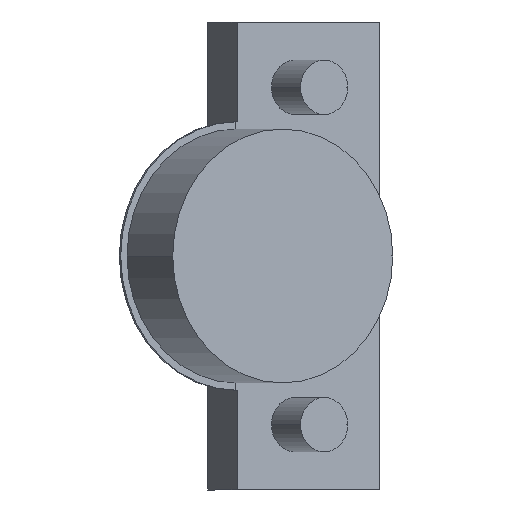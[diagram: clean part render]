
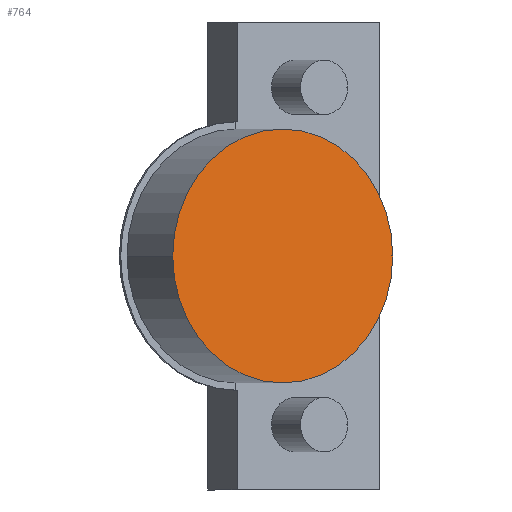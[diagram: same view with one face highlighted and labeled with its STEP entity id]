
A CAD part, front view. The second image highlights one B-rep face of the part: STEP entity #764.
In plain terms, the highlighted planar face has unit normal (0.5, -0.866, 0).
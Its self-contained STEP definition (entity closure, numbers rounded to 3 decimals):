
#99 = EDGE_CURVE ( 'NONE', #276, #261, #1314, .T. ) ;
#130 = EDGE_CURVE ( 'NONE', #261, #276, #1366, .T. ) ;
#160 = AXIS2_PLACEMENT_3D ( 'NONE', #543, #545, #546 ) ;
#169 = AXIS2_PLACEMENT_3D ( 'NONE', #614, #616, #617 ) ;
#225 = AXIS2_PLACEMENT_3D ( 'NONE', #1679, #1688, #1689 ) ;
#261 = VERTEX_POINT ( 'NONE', #670 ) ;
#276 = VERTEX_POINT ( 'NONE', #685 ) ;
#543 = CARTESIAN_POINT ( 'NONE',  ( 12.05, -10.912, 0. ) ) ;
#545 = DIRECTION ( 'NONE',  ( 0.5, -0.866, 0. ) ) ;
#546 = DIRECTION ( 'NONE',  ( 0.866, 0.5, 0. ) ) ;
#614 = CARTESIAN_POINT ( 'NONE',  ( 12.05, -10.912, 0. ) ) ;
#616 = DIRECTION ( 'NONE',  ( 0.5, -0.866, 0. ) ) ;
#617 = DIRECTION ( 'NONE',  ( 0.866, 0.5, 0. ) ) ;
#670 = CARTESIAN_POINT ( 'NONE',  ( 27.205, -2.162, 0. ) ) ;
#685 = CARTESIAN_POINT ( 'NONE',  ( -3.105, -19.662, 0. ) ) ;
#764 = ADVANCED_FACE ( 'NONE', ( #1451 ), #1676, .T. ) ;
#833 = EDGE_LOOP ( 'NONE', ( #1088, #1086 ) ) ;
#1086 = ORIENTED_EDGE ( 'NONE', *, *, #130, .T. ) ;
#1088 = ORIENTED_EDGE ( 'NONE', *, *, #99, .T. ) ;
#1314 = CIRCLE ( 'NONE', #160, 17.5 ) ;
#1366 = CIRCLE ( 'NONE', #169, 17.5 ) ;
#1451 = FACE_OUTER_BOUND ( 'NONE', #833, .T. ) ;
#1676 = PLANE ( 'NONE',  #225 ) ;
#1679 = CARTESIAN_POINT ( 'NONE',  ( 12.05, -10.912, 0. ) ) ;
#1688 = DIRECTION ( 'NONE',  ( 0.5, -0.866, 0. ) ) ;
#1689 = DIRECTION ( 'NONE',  ( 0.866, 0.5, 0. ) ) ;
